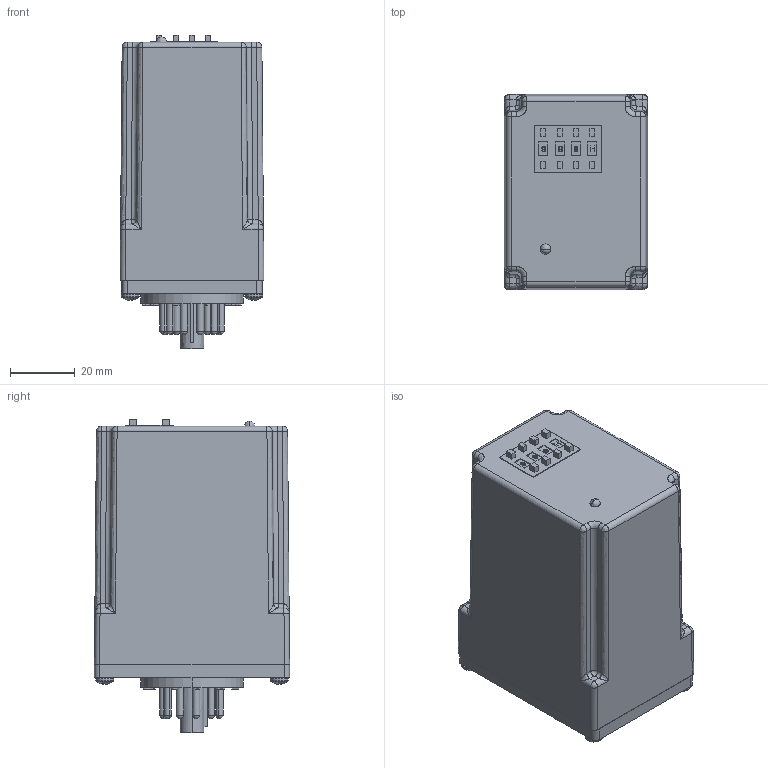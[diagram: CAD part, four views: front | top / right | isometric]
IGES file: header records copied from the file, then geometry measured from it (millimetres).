
Start section: SolidWorks IGES file using analytic representation for surfaces
Global section: file name: C:\Documents and Settings\Joshua\Desktop\eric\090413\TD-7-Single Function.igs; native system: SolidWorks 2007; preprocessor: SolidWorks 2007; author: Joshua; date: 140904.220504; units: inch
Bounding box: 44.45 x 60.33 x 96.9 mm (x, y, z)
Surface area: 29184.8 mm2 (no closed solid volume)
Topology: 0 solids, 0 shells, 860 faces, 10401 edges, 10325 vertices
Faces by surface type: bspline 510, revolution 350
